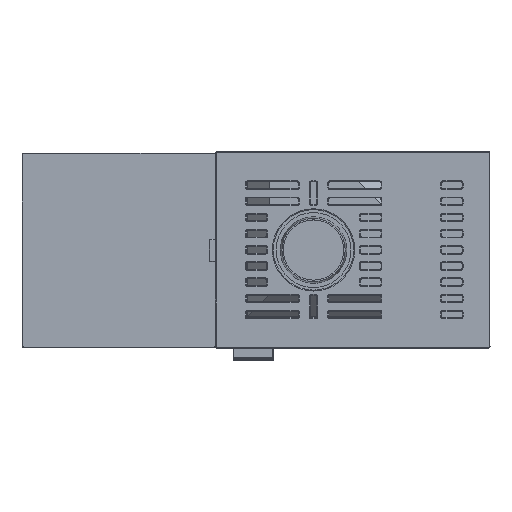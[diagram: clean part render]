
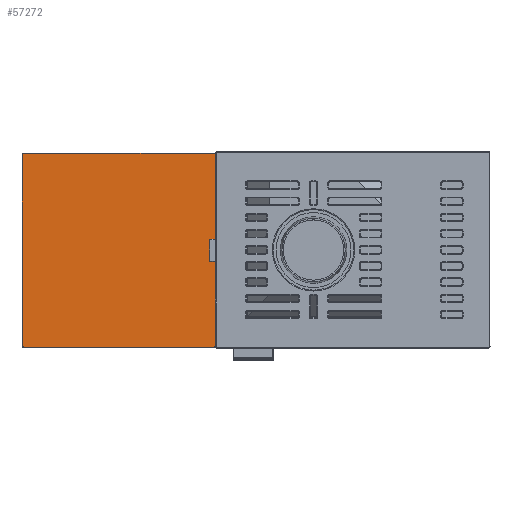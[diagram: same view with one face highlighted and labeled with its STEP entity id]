
A CAD part, top view. The second image highlights one B-rep face of the part: STEP entity #57272.
In plain terms, the highlighted planar face has unit normal (0, 0, 1).
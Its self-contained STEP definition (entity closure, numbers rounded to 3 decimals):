
#2081=CIRCLE('',#61157,4.);
#2082=CIRCLE('',#61158,4.);
#2083=CIRCLE('',#61159,4.);
#2084=CIRCLE('',#61160,4.);
#5454=LINE('',#105648,#8893);
#5464=LINE('',#106957,#8903);
#5466=LINE('',#106961,#8905);
#5470=LINE('',#106970,#8909);
#8893=VECTOR('',#71308,1000.);
#8903=VECTOR('',#71320,1000.);
#8905=VECTOR('',#71324,1000.);
#8909=VECTOR('',#71330,1000.);
#21720=ORIENTED_EDGE('',*,*,#30153,.F.);
#21721=ORIENTED_EDGE('',*,*,#30163,.T.);
#21722=ORIENTED_EDGE('',*,*,#30159,.T.);
#21723=ORIENTED_EDGE('',*,*,#30164,.T.);
#21724=ORIENTED_EDGE('',*,*,#29936,.T.);
#21725=ORIENTED_EDGE('',*,*,#30165,.T.);
#21726=ORIENTED_EDGE('',*,*,#30155,.F.);
#21727=ORIENTED_EDGE('',*,*,#30166,.T.);
#29936=EDGE_CURVE('',#34982,#34983,#5454,.T.);
#30153=EDGE_CURVE('',#35199,#35200,#5464,.T.);
#30155=EDGE_CURVE('',#35201,#35202,#5466,.T.);
#30159=EDGE_CURVE('',#35205,#35206,#5470,.T.);
#30163=EDGE_CURVE('',#35199,#35205,#2081,.F.);
#30164=EDGE_CURVE('',#35206,#34982,#2082,.F.);
#30165=EDGE_CURVE('',#34983,#35202,#2083,.F.);
#30166=EDGE_CURVE('',#35201,#35200,#2084,.F.);
#34982=VERTEX_POINT('',#105649);
#34983=VERTEX_POINT('',#105650);
#35199=VERTEX_POINT('',#106956);
#35200=VERTEX_POINT('',#106958);
#35201=VERTEX_POINT('',#106962);
#35202=VERTEX_POINT('',#106963);
#35205=VERTEX_POINT('',#106971);
#35206=VERTEX_POINT('',#106972);
#40830=EDGE_LOOP('',(#21720,#21721,#21722,#21723,#21724,#21725,#21726,#21727));
#44045=FACE_BOUND('',#40830,.T.);
#45932=PLANE('',#61156);
#57272=ADVANCED_FACE('',(#44045),#45932,.F.);
#61156=AXIS2_PLACEMENT_3D('',#106978,#71334,#71335);
#61157=AXIS2_PLACEMENT_3D('',#106979,#71336,#71337);
#61158=AXIS2_PLACEMENT_3D('',#106980,#71338,#71339);
#61159=AXIS2_PLACEMENT_3D('',#106981,#71340,#71341);
#61160=AXIS2_PLACEMENT_3D('',#106982,#71342,#71343);
#71308=DIRECTION('',(-1.,0.,0.));
#71320=DIRECTION('',(-1.,0.,0.));
#71324=DIRECTION('',(0.,1.,0.));
#71330=DIRECTION('',(0.,1.,0.));
#71334=DIRECTION('',(0.,0.,-1.));
#71335=DIRECTION('',(-1.,0.,0.));
#71336=DIRECTION('',(0.,0.,-1.));
#71337=DIRECTION('',(-1.,0.,0.));
#71338=DIRECTION('',(0.,0.,-1.));
#71339=DIRECTION('',(-1.,0.,0.));
#71340=DIRECTION('',(0.,0.,-1.));
#71341=DIRECTION('',(-1.,0.,0.));
#71342=DIRECTION('',(0.,0.,-1.));
#71343=DIRECTION('',(-1.,0.,0.));
#105648=CARTESIAN_POINT('',(217.5,0.,561.5));
#105649=CARTESIAN_POINT('',(213.5,0.,561.5));
#105650=CARTESIAN_POINT('',(-213.5,0.,561.5));
#106956=CARTESIAN_POINT('',(213.5,-435.,561.5));
#106957=CARTESIAN_POINT('',(217.5,-435.,561.5));
#106958=CARTESIAN_POINT('',(-213.5,-435.,561.5));
#106961=CARTESIAN_POINT('',(-217.5,-435.,561.5));
#106962=CARTESIAN_POINT('',(-217.5,-431.,561.5));
#106963=CARTESIAN_POINT('',(-217.5,-4.,561.5));
#106970=CARTESIAN_POINT('',(217.5,-435.,561.5));
#106971=CARTESIAN_POINT('',(217.5,-431.,561.5));
#106972=CARTESIAN_POINT('',(217.5,-4.,561.5));
#106978=CARTESIAN_POINT('',(217.5,-435.,561.5));
#106979=CARTESIAN_POINT('',(213.5,-431.,561.5));
#106980=CARTESIAN_POINT('',(213.5,-4.,561.5));
#106981=CARTESIAN_POINT('',(-213.5,-4.,561.5));
#106982=CARTESIAN_POINT('',(-213.5,-431.,561.5));
